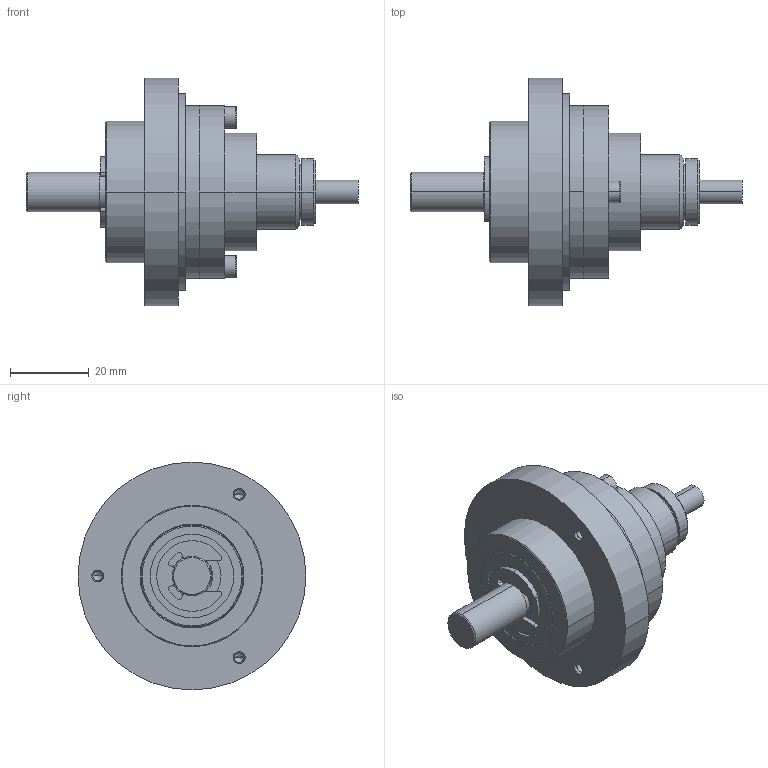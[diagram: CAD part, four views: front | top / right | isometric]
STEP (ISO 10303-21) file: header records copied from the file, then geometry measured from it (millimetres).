
FILE_DESCRIPTION (( 'STEP AP214' ), '1' );
FILE_NAME ('ËÈÐ-ÌÀ158Ä_èñï 4.STEP', '2017-05-23T08:34:28', ( '' ), ( '' ), 'SwSTEP 2.0', 'SolidWorks 2013', '' );
FILE_SCHEMA (( 'AUTOMOTIVE_DESIGN' ));
Length unit declared in the file: millimetre
Products named in the file (1): ËÈÐ-ÌÀ158Ä_èñï 4
Bounding box: 84.52 x 58 x 58 mm (x, y, z)
Volume: 49039.5 mm3; surface area: 36941.7 mm2
Topology: 31 solids, 31 shells, 1574 faces, 4166 edges, 2633 vertices
Faces by surface type: cone 629, cylinder 537, plane 184, sphere 128, torus 84, bspline 12
Entity records: 79778 total; most frequent: CARTESIAN_POINT 22508, DIRECTION 8865, ORIENTED_EDGE 8288, EDGE_CURVE 4144, AXIS2_PLACEMENT_3D 3798, VERTEX_POINT 2633, CIRCLE 2235, EDGE_LOOP 1697
